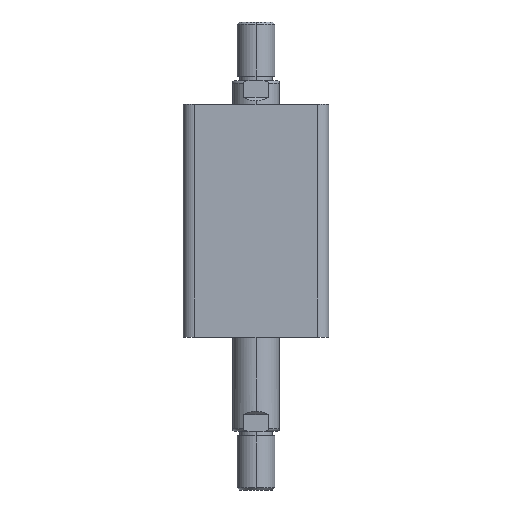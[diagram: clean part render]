
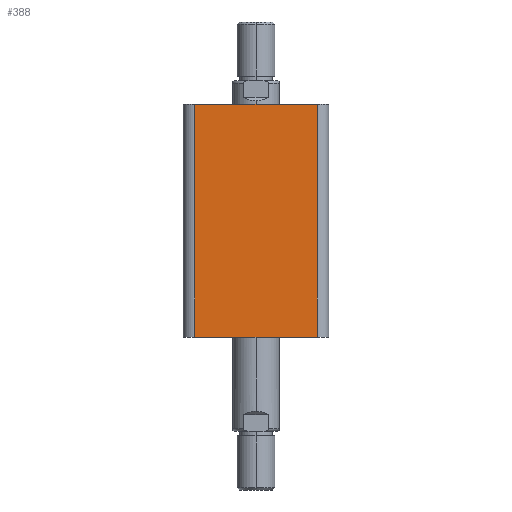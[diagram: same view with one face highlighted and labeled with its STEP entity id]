
A CAD part, left-side view. The second image highlights one B-rep face of the part: STEP entity #388.
In plain terms, the highlighted planar face has unit normal (-1, 0, 0).
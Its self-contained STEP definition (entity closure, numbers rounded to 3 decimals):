
#388 = ADVANCED_FACE ( 'NONE', ( #3110 ), #1503, .F. ) ;
#836 = EDGE_LOOP ( 'NONE', ( #1894, #1895, #1896, #1897 ) ) ;
#1033 = EDGE_CURVE ( 'NONE', #1644, #1653, #2124, .T. ) ;
#1034 = EDGE_CURVE ( 'NONE', #1653, #1652, #2120, .T. ) ;
#1035 = EDGE_CURVE ( 'NONE', #1665, #1652, #2128, .T. ) ;
#1036 = EDGE_CURVE ( 'NONE', #1665, #1644, #2130, .T. ) ;
#1495 = CARTESIAN_POINT ( 'NONE',  ( -31., 31., 99. ) ) ;
#1503 = PLANE ( 'NONE',  #3254 ) ;
#1505 = DIRECTION ( 'NONE',  ( 1., 0., 0. ) ) ;
#1506 = DIRECTION ( 'NONE',  ( 0., 1., 0. ) ) ;
#1644 = VERTEX_POINT ( 'NONE', #2508 ) ;
#1652 = VERTEX_POINT ( 'NONE', #2526 ) ;
#1653 = VERTEX_POINT ( 'NONE', #2527 ) ;
#1665 = VERTEX_POINT ( 'NONE', #2539 ) ;
#1894 = ORIENTED_EDGE ( 'NONE', *, *, #1033, .T. ) ;
#1895 = ORIENTED_EDGE ( 'NONE', *, *, #1034, .T. ) ;
#1896 = ORIENTED_EDGE ( 'NONE', *, *, #1035, .F. ) ;
#1897 = ORIENTED_EDGE ( 'NONE', *, *, #1036, .T. ) ;
#2120 = LINE ( 'NONE', #2339, #2129 ) ;
#2124 = LINE ( 'NONE', #2350, #2127 ) ;
#2127 = VECTOR ( 'NONE', #2351, 1000. ) ;
#2128 = LINE ( 'NONE', #2353, #2131 ) ;
#2129 = VECTOR ( 'NONE', #2352, 1000. ) ;
#2130 = LINE ( 'NONE', #2355, #2133 ) ;
#2131 = VECTOR ( 'NONE', #2354, 1000. ) ;
#2133 = VECTOR ( 'NONE', #2356, 1000. ) ;
#2339 = CARTESIAN_POINT ( 'NONE',  ( -31., -26., 99. ) ) ;
#2350 = CARTESIAN_POINT ( 'NONE',  ( -31., 31., 0. ) ) ;
#2351 = DIRECTION ( 'NONE',  ( 0., -1., 0. ) ) ;
#2352 = DIRECTION ( 'NONE',  ( 0., 0., 1. ) ) ;
#2353 = CARTESIAN_POINT ( 'NONE',  ( -31., 31., 99. ) ) ;
#2354 = DIRECTION ( 'NONE',  ( 0., -1., 0. ) ) ;
#2355 = CARTESIAN_POINT ( 'NONE',  ( -31., 26., 99. ) ) ;
#2356 = DIRECTION ( 'NONE',  ( 0., 0., -1. ) ) ;
#2508 = CARTESIAN_POINT ( 'NONE',  ( -31., 26., 0. ) ) ;
#2526 = CARTESIAN_POINT ( 'NONE',  ( -31., -26., 99. ) ) ;
#2527 = CARTESIAN_POINT ( 'NONE',  ( -31., -26., 0. ) ) ;
#2539 = CARTESIAN_POINT ( 'NONE',  ( -31., 26., 99. ) ) ;
#3110 = FACE_OUTER_BOUND ( 'NONE', #836, .T. ) ;
#3254 = AXIS2_PLACEMENT_3D ( 'NONE', #1495, #1505, #1506 ) ;
